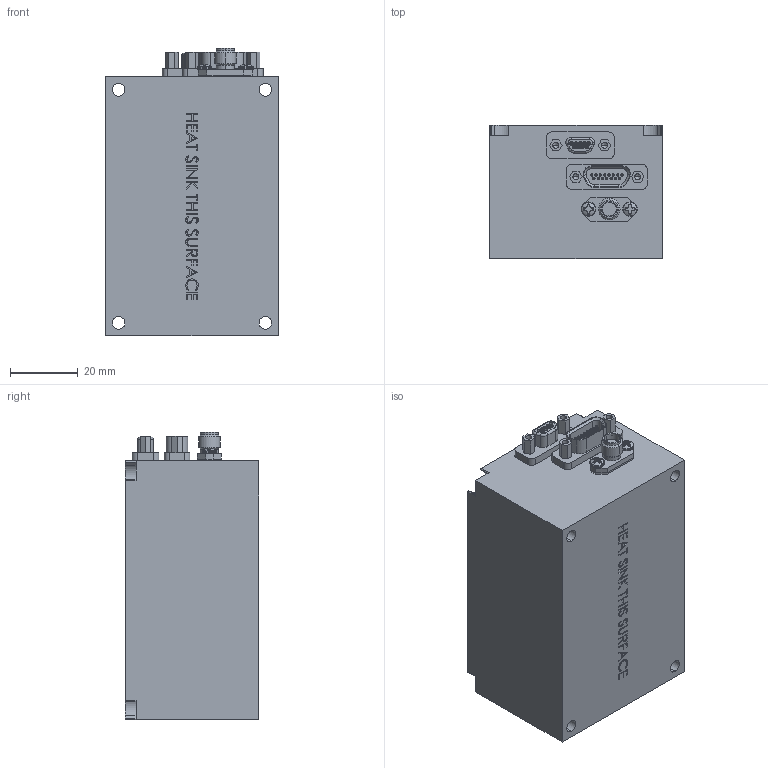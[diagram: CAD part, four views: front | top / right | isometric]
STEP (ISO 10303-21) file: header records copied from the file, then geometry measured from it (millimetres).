
FILE_DESCRIPTION (( 'STEP AP214' ), '1' );
FILE_NAME ('09BD.STEP', '2018-02-02T18:45:06', ( '' ), ( '' ), 'SwSTEP 2.0', 'SolidWorks 2016', '' );
FILE_SCHEMA (( 'AUTOMOTIVE_DESIGN' ));
Length unit declared in the file: inch
Products named in the file (1): 09BD
Bounding box: 50.8 x 39.26 x 84.65 mm (x, y, z)
Volume: 151437.1 mm3; surface area: 22450.4 mm2
Topology: 11 solids, 11 shells, 742 faces, 1858 edges, 1226 vertices
Faces by surface type: plane 390, cylinder 206, bspline 100, cone 29, torus 13, sphere 4
Entity records: 37094 total; most frequent: CARTESIAN_POINT 9999, ORIENTED_EDGE 3716, DIRECTION 3351, EDGE_CURVE 1858, VERTEX_POINT 1226, LINE 1123, VECTOR 1123, AXIS2_PLACEMENT_3D 1114
